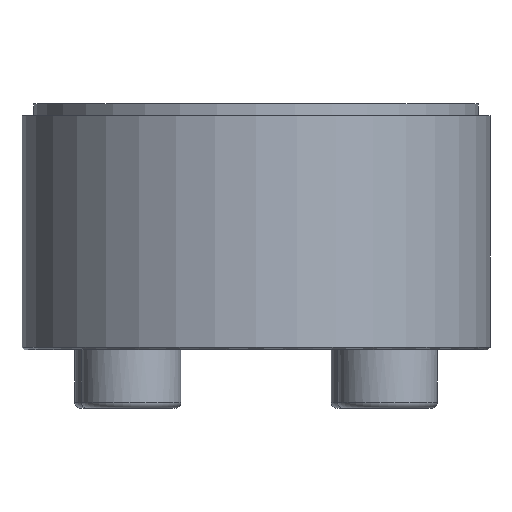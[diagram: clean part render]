
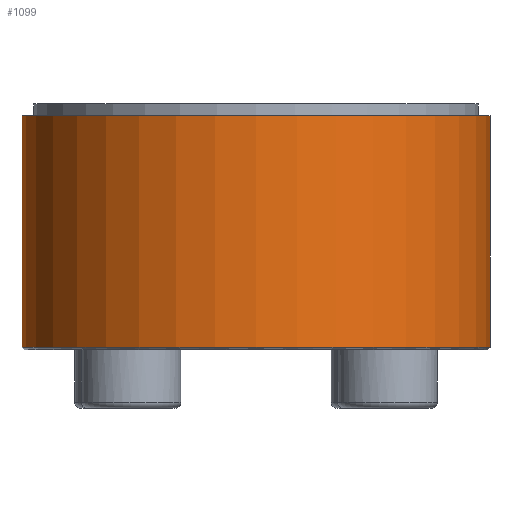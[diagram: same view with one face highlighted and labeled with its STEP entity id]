
A CAD part, front view. The second image highlights one B-rep face of the part: STEP entity #1099.
In plain terms, the highlighted cylindrical face has radius 20 mm (diameter 40 mm), a partial arc.
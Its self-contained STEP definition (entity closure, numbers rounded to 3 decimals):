
#70 = DIRECTION ( 'NONE',  ( 0., 0., -1. ) ) ;
#243 = CYLINDRICAL_SURFACE ( 'NONE', #1756, 20. ) ;
#379 = CARTESIAN_POINT ( 'NONE',  ( -20., 0., -10.3 ) ) ;
#388 = DIRECTION ( 'NONE',  ( 0., 0., -1. ) ) ;
#460 = EDGE_CURVE ( 'NONE', #770, #1002, #1294, .T. ) ;
#470 = DIRECTION ( 'NONE',  ( 0., 0., -1. ) ) ;
#520 = EDGE_CURVE ( 'NONE', #1021, #1207, #628, .T. ) ;
#571 = CIRCLE ( 'NONE', #1038, 20. ) ;
#600 = ORIENTED_EDGE ( 'NONE', *, *, #1378, .T. ) ;
#628 = LINE ( 'NONE', #1309, #1422 ) ;
#636 = DIRECTION ( 'NONE',  ( 0., 0., 1. ) ) ;
#649 = CARTESIAN_POINT ( 'NONE',  ( 0., 0., -10.3 ) ) ;
#653 = VECTOR ( 'NONE', #70, 1000. ) ;
#654 = ORIENTED_EDGE ( 'NONE', *, *, #460, .T. ) ;
#765 = AXIS2_PLACEMENT_3D ( 'NONE', #649, #636, #1617 ) ;
#770 = VERTEX_POINT ( 'NONE', #1131 ) ;
#821 = DIRECTION ( 'NONE',  ( -1., 0., 0. ) ) ;
#949 = EDGE_CURVE ( 'NONE', #1002, #1207, #1544, .T. ) ;
#1002 = VERTEX_POINT ( 'NONE', #379 ) ;
#1021 = VERTEX_POINT ( 'NONE', #1490 ) ;
#1038 = AXIS2_PLACEMENT_3D ( 'NONE', #1293, #470, #1430 ) ;
#1099 = ADVANCED_FACE ( 'NONE', ( #1398 ), #243, .T. ) ;
#1131 = CARTESIAN_POINT ( 'NONE',  ( -20., 0., 9.5 ) ) ;
#1207 = VERTEX_POINT ( 'NONE', #1361 ) ;
#1293 = CARTESIAN_POINT ( 'NONE',  ( 0., 0., 9.5 ) ) ;
#1294 = LINE ( 'NONE', #1689, #653 ) ;
#1309 = CARTESIAN_POINT ( 'NONE',  ( 20., 0., 0. ) ) ;
#1361 = CARTESIAN_POINT ( 'NONE',  ( 20., 0., -10.3 ) ) ;
#1378 = EDGE_CURVE ( 'NONE', #1021, #770, #571, .T. ) ;
#1398 = FACE_OUTER_BOUND ( 'NONE', #1774, .T. ) ;
#1422 = VECTOR ( 'NONE', #1428, 1000. ) ;
#1428 = DIRECTION ( 'NONE',  ( 0., 0., -1. ) ) ;
#1430 = DIRECTION ( 'NONE',  ( 1., 0., 0. ) ) ;
#1486 = CARTESIAN_POINT ( 'NONE',  ( 0., 0., 0. ) ) ;
#1490 = CARTESIAN_POINT ( 'NONE',  ( 20., 0., 9.5 ) ) ;
#1492 = ORIENTED_EDGE ( 'NONE', *, *, #520, .F. ) ;
#1505 = ORIENTED_EDGE ( 'NONE', *, *, #949, .T. ) ;
#1544 = CIRCLE ( 'NONE', #765, 20. ) ;
#1617 = DIRECTION ( 'NONE',  ( -1., 0., 0. ) ) ;
#1689 = CARTESIAN_POINT ( 'NONE',  ( -20., 0., 0. ) ) ;
#1756 = AXIS2_PLACEMENT_3D ( 'NONE', #1486, #388, #821 ) ;
#1774 = EDGE_LOOP ( 'NONE', ( #1492, #600, #654, #1505 ) ) ;
